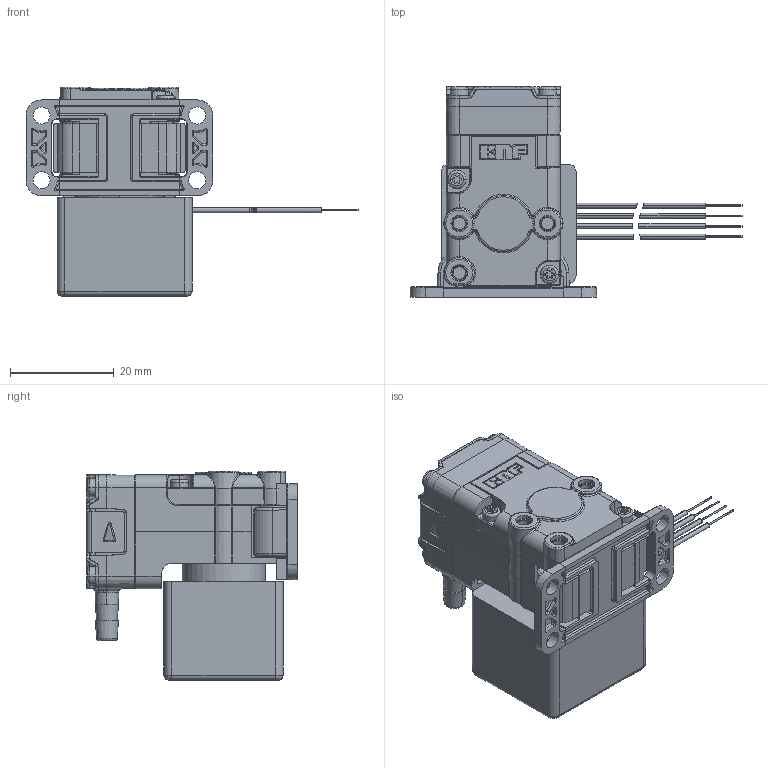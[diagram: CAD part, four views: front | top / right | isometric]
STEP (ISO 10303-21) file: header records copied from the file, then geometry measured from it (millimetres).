
FILE_DESCRIPTION((''),'2;1');
FILE_NAME('CAD1159366_ASM_ASM','2025-12-12T12:45:25',('UHermann'),('KNF Flodos AG, 6210 Sursee, Switzerland'),'CREO PARAMETRIC BY PTC INC, 2024401','CREO PARAMETRIC BY PTC INC, 2024401','');
FILE_SCHEMA(('AP242_MANAGED_MODEL_BASED_3D_ENGINEERING_MIM_LF { 1 0 10303 442 1 1 4 }'));
Products named in the file (5): BODY_DCB-4_1; HEAD_1_1_2_3_4_5; CLIP_1_1_2_3_4_5; CAD1159366_ASM_1_ASM; CAD1159366_ASM_ASM
Assembly tree (4 placements, depth 3):
  CAD1159366_ASM_ASM
    CAD1159366_ASM_1_ASM
      BODY_DCB-4_1
      HEAD_1_1_2_3_4_5
      CLIP_1_1_2_3_4_5
Bounding box: 64 x 40.6 x 40.4 mm (x, y, z)
Volume: 28438.3 mm3; surface area: 12406.2 mm2
Topology: 7 solids, 9 shells, 1868 faces, 4892 edges, 3062 vertices
Faces by surface type: cylinder 686, plane 616, torus 180, bspline 174, cone 149, sphere 55, extrusion 8
Entity records: 88184 total; most frequent: CARTESIAN_POINT 27747, ORIENTED_EDGE 9556, DIRECTION 9485, EDGE_CURVE 4796, AXIS2_PLACEMENT_3D 3586, VERTEX_POINT 2992, PRESENTATION_STYLE_ASSIGNMENT 2349, STYLED_ITEM 2349
